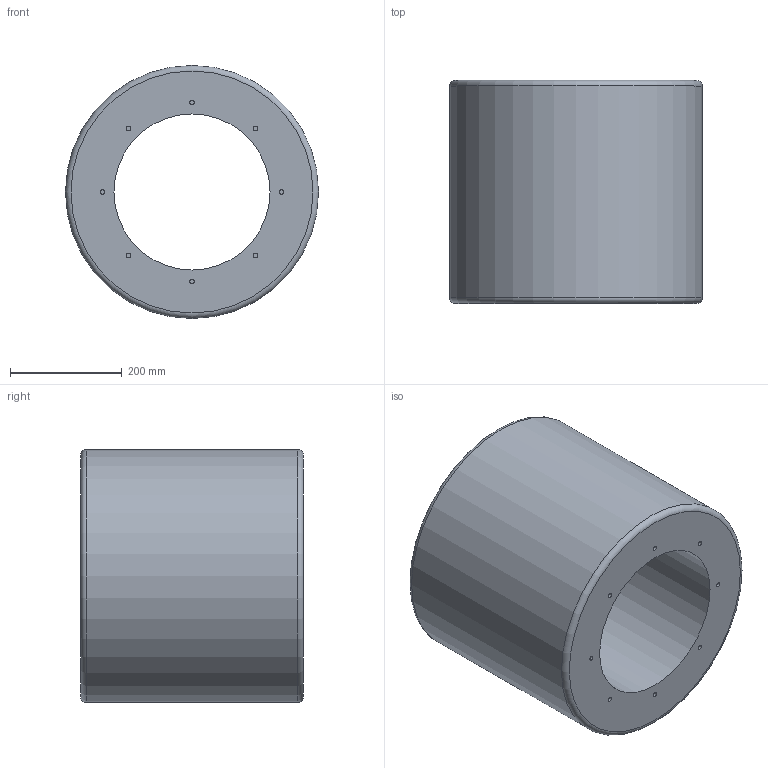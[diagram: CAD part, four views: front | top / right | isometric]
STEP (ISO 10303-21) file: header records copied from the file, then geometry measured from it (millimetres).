
FILE_DESCRIPTION(/* description */ (''),/* implementation_level */ '2;1');
FILE_NAME(/* name */ 'Z:\Output\RSD_280-400-08740-002.stp',/* time_stamp */ '2017-09-20T12:03:55+02:00',/* author */ ('Engineering1'),/* organization */ (''),/* preprocessor_version */ 'ST-DEVELOPER v16.5',/* originating_system */ 'Autodesk Inventor 2017',/* authorisation */ '');
FILE_SCHEMA (('AUTOMOTIVE_DESIGN { 1 0 10303 214 3 1 1 }'));
Length unit declared in the file: millimetre
Products named in the file (1): RSD-1
Bounding box: 454 x 400 x 454 mm (x, y, z)
Volume: 40054508 mm3; surface area: 1114676.4 mm2
Topology: 1 solids, 1 shells, 38 faces, 58 edges, 38 vertices
Faces by surface type: cylinder 18, plane 18, torus 2
Full cylindrical faces by diameter (mm): 8 x16, 280 x1, 454 x1
Entity records: 806 total; most frequent: DIRECTION 154, CARTESIAN_POINT 115, AXIS2_PLACEMENT_3D 77, EDGE_LOOP 76, ORIENTED_EDGE 76, FACE_BOUND 38, FACE_OUTER_BOUND 38, CIRCLE 38
